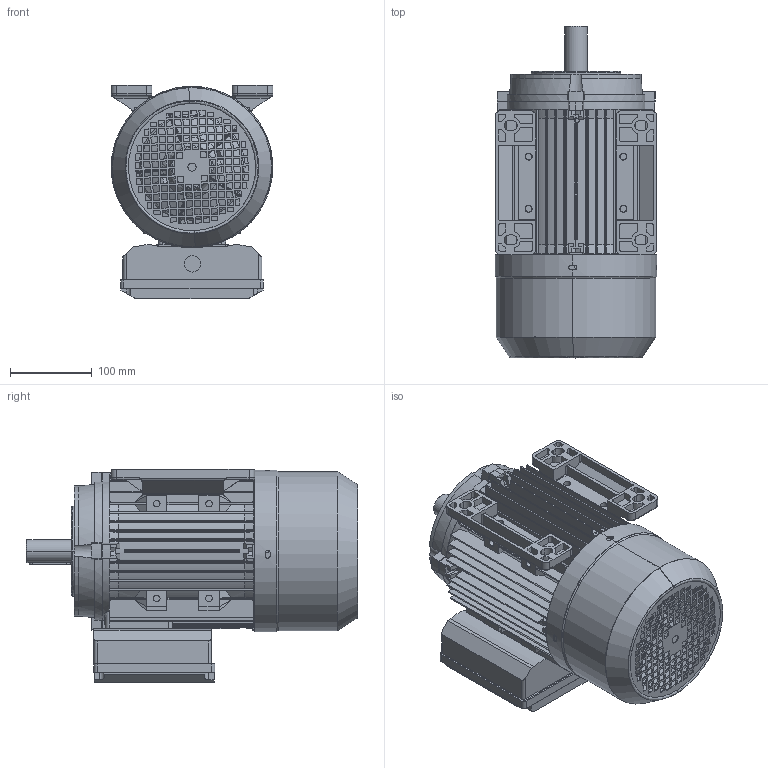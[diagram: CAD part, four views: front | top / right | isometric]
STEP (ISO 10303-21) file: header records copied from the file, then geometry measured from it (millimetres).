
FILE_DESCRIPTION (( 'STEP AP214' ), '1' );
FILE_NAME ('ML100_B34.STEP', '2013-11-21T08:54:36', ( 'Frank Wennekamp' ), ( '' ), 'SwSTEP 2.0', 'SolidWorks 2012', '' );
FILE_SCHEMA (( 'AUTOMOTIVE_DESIGN' ));
Products named in the file (9): Klemmenkastendeckel_ML90; Klemmenkastenunterteil_ML90; Lüfterhaube_ML100; B14-Flansch_MS100; Fuss_MS100; L黤terfl黦el_MS100; B-Lagerschild_MS100; Gehäuse_MS100; ML100_B34
Assembly tree (9 placements, depth 2):
  ML100_B34
    Gehäuse_MS100
    B-Lagerschild_MS100
    L黤terfl黦el_MS100
    Fuss_MS100  x2
    B14-Flansch_MS100
    Lüfterhaube_ML100
    Klemmenkastenunterteil_ML90
    Klemmenkastendeckel_ML90
Bounding box: 198 x 406.31 x 261 mm (x, y, z)
Volume: 2903987.8 mm3; surface area: 1097301.2 mm2
Topology: 9 solids, 10 shells, 2432 faces, 6670 edges, 4325 vertices
Faces by surface type: plane 1473, cylinder 640, cone 161, bspline 158
Entity records: 82794 total; most frequent: CARTESIAN_POINT 24476, ORIENTED_EDGE 12628, DIRECTION 11190, EDGE_CURVE 6314, VERTEX_POINT 4093, LINE 4002, VECTOR 4002, AXIS2_PLACEMENT_3D 3594
